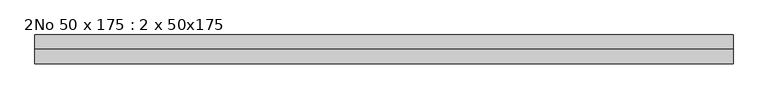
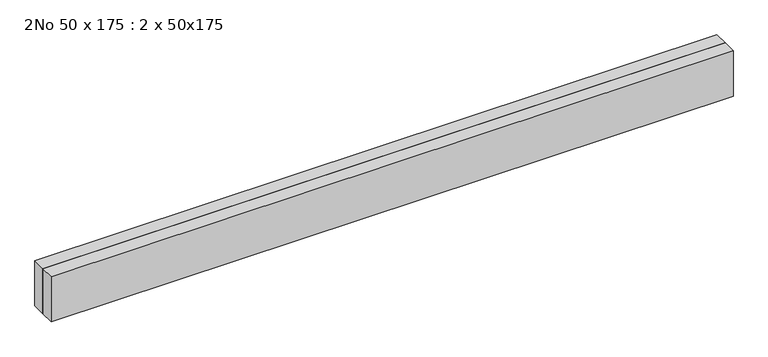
"""IFC4 building model written with IfcOpenShell, lengths in millimetres: beam geometry, 2No 50 x 175 : 2 x 50x175."""

from ifc_helpers import new_model, si_unit, frame, origin, place, context, project, spatial, polyline, outline, extrude, source, transform, mapped, element, save


def beam_2no_50_x_175_2_x_50x175_3356c97d(model_context):
    return source(origin(), model_context, "Body", "SweptSolid", [
        extrude(outline(polyline([(1342.582011, -25.0), (1342.582011, -75.0), (-1091.2810717, -75.0), (-1091.2810717, -25.0), (1342.582011, -25.0)])), frame((0.0, 0.0, -85.0), z_axis=(0.0, 0.0, 1.0), x_axis=(1.0, 0.0, 0.0)), (0.0, 0.0, 1.0), 170.0),
        extrude(outline(polyline([(1342.582011, 25.0), (1342.582011, -25.0), (-1091.2810717, -25.0), (-1091.2810717, 25.0), (1342.582011, 25.0)])), frame((0.0, 0.0, -85.0), z_axis=(0.0, 0.0, 1.0), x_axis=(1.0, 0.0, 0.0)), (0.0, 0.0, 1.0), 170.0),
    ])


if __name__ == "__main__":
    model = new_model("IFC4")
    model_context = context("Model", 3, world=origin())
    ifc_project = project(units=[si_unit("LENGTHUNIT", "METRE", prefix="MILLI")], contexts=[model_context])
    site = spatial("IfcSite", under=ifc_project)
    building = spatial("IfcBuilding", under=site)
    placement = place(None, origin())
    beam_2no_50_x_175_2_x_50x175_shape = beam_2no_50_x_175_2_x_50x175_3356c97d(model_context)
    element("IfcBeam", 1, ObjectType="2No 50 x 175 : 2 x 50x175", at=placement, inside=building, context=model_context, shape_type="MappedRepresentation", body=[
        mapped(beam_2no_50_x_175_2_x_50x175_shape, transform((0.0, 0.0, 0.0), x_axis=(1.0, 0.0, 0.0), y_axis=(0.0, 1.0, 0.0), z_axis=(0.0, 0.0, 1.0))),
    ])
    save(model, "model.ifc")
